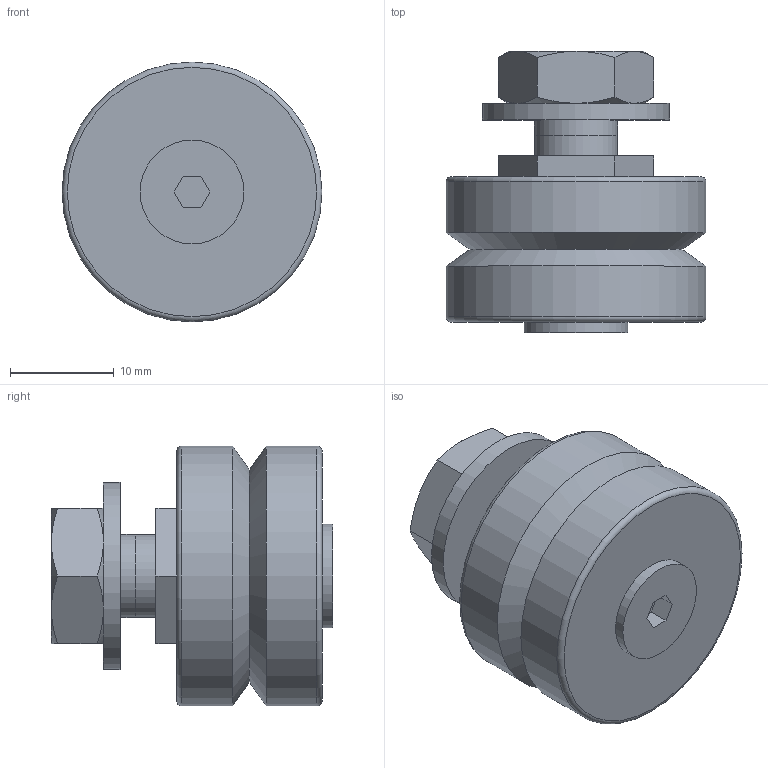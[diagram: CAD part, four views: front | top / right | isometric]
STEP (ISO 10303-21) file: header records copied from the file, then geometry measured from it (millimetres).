
FILE_DESCRIPTION(('STEP AP203'),'1');
FILE_NAME('//192.168.1.1/share/s-4 技術開発/s-4-4_CAD/s-4-4-6_見直し、確認済み/013 修正済み(済)/ジャーナル_TOP/NAS/NAS-25-C.step','2022-03-11T07:40:53',(' '),(' '),'Spatial InterOp 3D',' ',' ');
FILE_SCHEMA(('CONFIG_CONTROL_DESIGN'));
Length unit declared in the file: millimetre
Products named in the file (3): 1; 2; 3
Bounding box: 25 x 27.05 x 25 mm (x, y, z)
Volume: 8301.1 mm3; surface area: 3644 mm2
Topology: 3 solids, 3 shells, 52 faces, 112 edges, 69 vertices
Faces by surface type: plane 27, cone 14, cylinder 8, torus 2, sphere 1
Full cylindrical faces by diameter (mm): 6.75 x1, 8 x2, 8.5 x1, 10 x1, 18 x1, 25 x2
Entity records: 1526 total; most frequent: CARTESIAN_POINT 353, DIRECTION 212, ORIENTED_EDGE 192, EDGE_CURVE 96, AXIS2_PLACEMENT_3D 85, EDGE_LOOP 72, VERTEX_POINT 66, FACE_OUTER_BOUND 62
